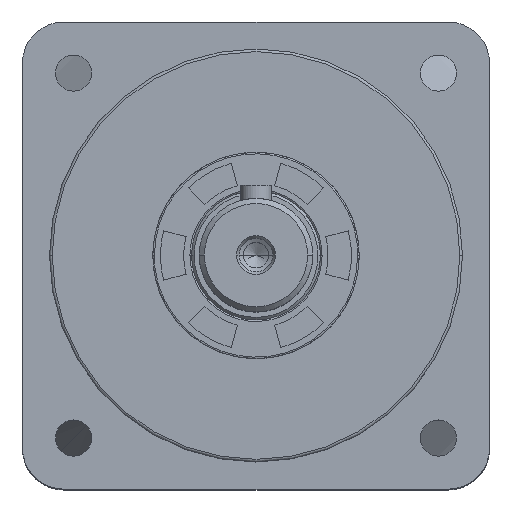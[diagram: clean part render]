
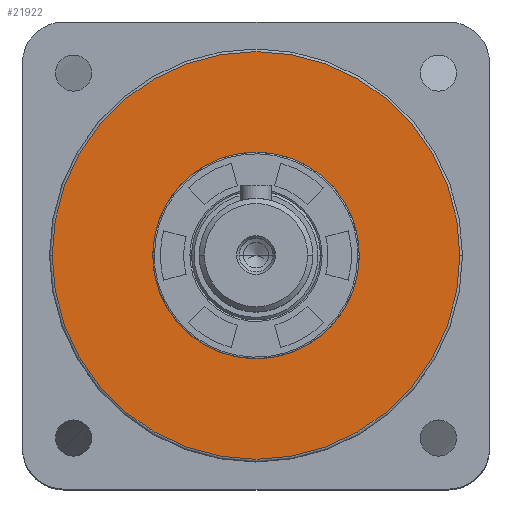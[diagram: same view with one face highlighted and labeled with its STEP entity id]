
A CAD part, top view. The second image highlights one B-rep face of the part: STEP entity #21922.
In plain terms, the highlighted planar face has unit normal (0, 0, 1).
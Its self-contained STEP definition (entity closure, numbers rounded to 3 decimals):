
#547 = CIRCLE ( 'NONE', #29034, 20. ) ;
#566 = EDGE_LOOP ( 'NONE', ( #14209, #11242 ) ) ;
#840 = EDGE_CURVE ( 'NONE', #29532, #4899, #7377, .T. ) ;
#1607 = VERTEX_POINT ( 'NONE', #19301 ) ;
#1629 = CARTESIAN_POINT ( 'NONE',  ( 0., 0., 26.1 ) ) ;
#4899 = VERTEX_POINT ( 'NONE', #29578 ) ;
#5047 = AXIS2_PLACEMENT_3D ( 'NONE', #1629, #23707, #26293 ) ;
#5444 = CARTESIAN_POINT ( 'NONE',  ( 0., 0., 26.1 ) ) ;
#5707 = DIRECTION ( 'NONE',  ( 1., 0., 0. ) ) ;
#7377 = CIRCLE ( 'NONE', #5047, 39.5 ) ;
#9990 = CARTESIAN_POINT ( 'NONE',  ( -39.5, 0., 26.1 ) ) ;
#10297 = EDGE_CURVE ( 'NONE', #1607, #25607, #547, .T. ) ;
#10468 = DIRECTION ( 'NONE',  ( 0., 0., 1. ) ) ;
#11242 = ORIENTED_EDGE ( 'NONE', *, *, #31499, .F. ) ;
#11917 = CIRCLE ( 'NONE', #18675, 39.5 ) ;
#12751 = DIRECTION ( 'NONE',  ( 0., 0., 1. ) ) ;
#13165 = ORIENTED_EDGE ( 'NONE', *, *, #840, .T. ) ;
#14209 = ORIENTED_EDGE ( 'NONE', *, *, #10297, .F. ) ;
#14908 = PLANE ( 'NONE',  #17489 ) ;
#15012 = CARTESIAN_POINT ( 'NONE',  ( 0., 0., 26.1 ) ) ;
#17489 = AXIS2_PLACEMENT_3D ( 'NONE', #15012, #12751, #27771 ) ;
#18064 = EDGE_CURVE ( 'NONE', #4899, #29532, #11917, .T. ) ;
#18675 = AXIS2_PLACEMENT_3D ( 'NONE', #30261, #23065, #5707 ) ;
#19301 = CARTESIAN_POINT ( 'NONE',  ( 20., 0., 26.1 ) ) ;
#19675 = FACE_BOUND ( 'NONE', #566, .T. ) ;
#21080 = AXIS2_PLACEMENT_3D ( 'NONE', #5444, #10468, #27735 ) ;
#21922 = ADVANCED_FACE ( 'NONE', ( #28508, #19675 ), #14908, .T. ) ;
#22494 = CIRCLE ( 'NONE', #21080, 20. ) ;
#23065 = DIRECTION ( 'NONE',  ( 0., 0., 1. ) ) ;
#23707 = DIRECTION ( 'NONE',  ( 0., 0., 1. ) ) ;
#24489 = DIRECTION ( 'NONE',  ( 1., 0., 0. ) ) ;
#24713 = DIRECTION ( 'NONE',  ( 0., 0., 1. ) ) ;
#25484 = ORIENTED_EDGE ( 'NONE', *, *, #18064, .T. ) ;
#25607 = VERTEX_POINT ( 'NONE', #31689 ) ;
#26293 = DIRECTION ( 'NONE',  ( 1., 0., 0. ) ) ;
#27735 = DIRECTION ( 'NONE',  ( 1., 0., 0. ) ) ;
#27771 = DIRECTION ( 'NONE',  ( 1., 0., 0. ) ) ;
#28508 = FACE_OUTER_BOUND ( 'NONE', #29630, .T. ) ;
#29034 = AXIS2_PLACEMENT_3D ( 'NONE', #31803, #24713, #24489 ) ;
#29532 = VERTEX_POINT ( 'NONE', #9990 ) ;
#29578 = CARTESIAN_POINT ( 'NONE',  ( 39.5, 0., 26.1 ) ) ;
#29630 = EDGE_LOOP ( 'NONE', ( #25484, #13165 ) ) ;
#30261 = CARTESIAN_POINT ( 'NONE',  ( 0., 0., 26.1 ) ) ;
#31499 = EDGE_CURVE ( 'NONE', #25607, #1607, #22494, .T. ) ;
#31689 = CARTESIAN_POINT ( 'NONE',  ( -20., 0., 26.1 ) ) ;
#31803 = CARTESIAN_POINT ( 'NONE',  ( 0., 0., 26.1 ) ) ;
